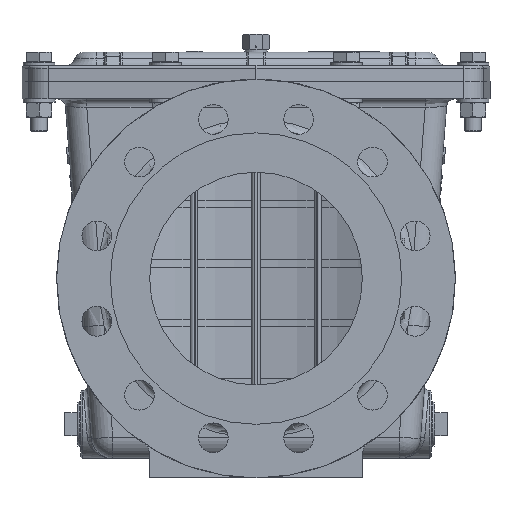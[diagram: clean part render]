
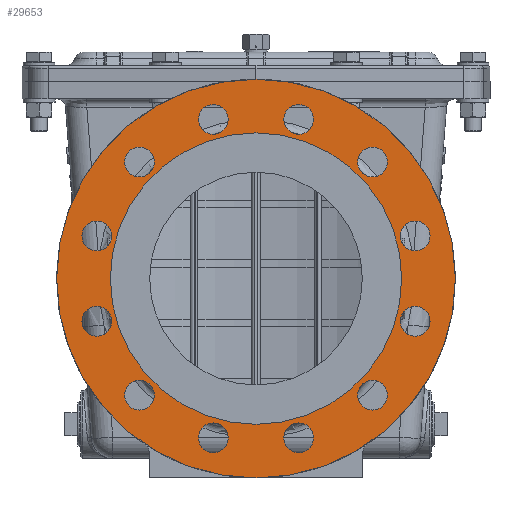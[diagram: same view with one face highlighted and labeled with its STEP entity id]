
A CAD part, front view. The second image highlights one B-rep face of the part: STEP entity #29653.
In plain terms, the highlighted planar face has unit normal (0, -1, 0) as drawn and (1, 0, 0) by its records, which use the part's own axes.
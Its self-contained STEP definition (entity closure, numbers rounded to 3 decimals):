
#6635=PLANE('',#31821);
#8175=FACE_BOUND('',#10999,.T.);
#8176=FACE_BOUND('',#11000,.T.);
#8177=FACE_BOUND('',#11001,.T.);
#8178=FACE_BOUND('',#11002,.T.);
#8179=FACE_BOUND('',#11003,.T.);
#8180=FACE_BOUND('',#11004,.T.);
#8181=FACE_BOUND('',#11005,.T.);
#8182=FACE_BOUND('',#11006,.T.);
#8183=FACE_BOUND('',#11007,.T.);
#8184=FACE_BOUND('',#11008,.T.);
#8185=FACE_BOUND('',#11009,.T.);
#8186=FACE_BOUND('',#11010,.T.);
#8187=FACE_BOUND('',#11011,.T.);
#9166=FACE_OUTER_BOUND('',#10998,.T.);
#10998=EDGE_LOOP('',(#24220));
#10999=EDGE_LOOP('',(#24221));
#11000=EDGE_LOOP('',(#24222));
#11001=EDGE_LOOP('',(#24223));
#11002=EDGE_LOOP('',(#24224));
#11003=EDGE_LOOP('',(#24225));
#11004=EDGE_LOOP('',(#24226));
#11005=EDGE_LOOP('',(#24227));
#11006=EDGE_LOOP('',(#24228));
#11007=EDGE_LOOP('',(#24229));
#11008=EDGE_LOOP('',(#24230));
#11009=EDGE_LOOP('',(#24231));
#11010=EDGE_LOOP('',(#24232));
#11011=EDGE_LOOP('',(#24233));
#12130=CIRCLE('',#31312,187.5);
#12366=CIRCLE('',#31795,14.);
#12367=CIRCLE('',#31797,14.);
#12368=CIRCLE('',#31799,14.);
#12369=CIRCLE('',#31801,14.);
#12370=CIRCLE('',#31803,14.);
#12371=CIRCLE('',#31805,14.);
#12372=CIRCLE('',#31807,14.);
#12373=CIRCLE('',#31809,14.);
#12374=CIRCLE('',#31811,14.);
#12375=CIRCLE('',#31813,14.);
#12376=CIRCLE('',#31815,14.);
#12377=CIRCLE('',#31817,14.);
#12378=CIRCLE('',#31819,137.);
#13920=VERTEX_POINT('',#46741);
#14289=VERTEX_POINT('',#51331);
#14290=VERTEX_POINT('',#51334);
#14291=VERTEX_POINT('',#51337);
#14292=VERTEX_POINT('',#51340);
#14293=VERTEX_POINT('',#51343);
#14294=VERTEX_POINT('',#51346);
#14295=VERTEX_POINT('',#51349);
#14296=VERTEX_POINT('',#51352);
#14297=VERTEX_POINT('',#51355);
#14298=VERTEX_POINT('',#51358);
#14299=VERTEX_POINT('',#51361);
#14300=VERTEX_POINT('',#51364);
#14301=VERTEX_POINT('',#51367);
#17217=EDGE_CURVE('',#13920,#13920,#12130,.T.);
#17821=EDGE_CURVE('',#14289,#14289,#12366,.T.);
#17822=EDGE_CURVE('',#14290,#14290,#12367,.T.);
#17823=EDGE_CURVE('',#14291,#14291,#12368,.T.);
#17824=EDGE_CURVE('',#14292,#14292,#12369,.T.);
#17825=EDGE_CURVE('',#14293,#14293,#12370,.T.);
#17826=EDGE_CURVE('',#14294,#14294,#12371,.T.);
#17827=EDGE_CURVE('',#14295,#14295,#12372,.T.);
#17828=EDGE_CURVE('',#14296,#14296,#12373,.T.);
#17829=EDGE_CURVE('',#14297,#14297,#12374,.T.);
#17830=EDGE_CURVE('',#14298,#14298,#12375,.T.);
#17831=EDGE_CURVE('',#14299,#14299,#12376,.T.);
#17832=EDGE_CURVE('',#14300,#14300,#12377,.T.);
#17833=EDGE_CURVE('',#14301,#14301,#12378,.T.);
#24220=ORIENTED_EDGE('',*,*,#17217,.T.);
#24221=ORIENTED_EDGE('',*,*,#17821,.T.);
#24222=ORIENTED_EDGE('',*,*,#17822,.T.);
#24223=ORIENTED_EDGE('',*,*,#17823,.T.);
#24224=ORIENTED_EDGE('',*,*,#17824,.T.);
#24225=ORIENTED_EDGE('',*,*,#17825,.T.);
#24226=ORIENTED_EDGE('',*,*,#17826,.T.);
#24227=ORIENTED_EDGE('',*,*,#17827,.T.);
#24228=ORIENTED_EDGE('',*,*,#17828,.T.);
#24229=ORIENTED_EDGE('',*,*,#17829,.T.);
#24230=ORIENTED_EDGE('',*,*,#17830,.T.);
#24231=ORIENTED_EDGE('',*,*,#17831,.T.);
#24232=ORIENTED_EDGE('',*,*,#17832,.T.);
#24233=ORIENTED_EDGE('',*,*,#17833,.F.);
#29653=ADVANCED_FACE('',(#9166,#8175,#8176,#8177,#8178,#8179,#8180,#8181,
#8182,#8183,#8184,#8185,#8186,#8187),#6635,.F.);
#31312=AXIS2_PLACEMENT_3D('',#46742,#35218,#35219);
#31795=AXIS2_PLACEMENT_3D('',#51332,#36392,#36393);
#31797=AXIS2_PLACEMENT_3D('',#51335,#36396,#36397);
#31799=AXIS2_PLACEMENT_3D('',#51338,#36400,#36401);
#31801=AXIS2_PLACEMENT_3D('',#51341,#36404,#36405);
#31803=AXIS2_PLACEMENT_3D('',#51344,#36408,#36409);
#31805=AXIS2_PLACEMENT_3D('',#51347,#36412,#36413);
#31807=AXIS2_PLACEMENT_3D('',#51350,#36416,#36417);
#31809=AXIS2_PLACEMENT_3D('',#51353,#36420,#36421);
#31811=AXIS2_PLACEMENT_3D('',#51356,#36424,#36425);
#31813=AXIS2_PLACEMENT_3D('',#51359,#36428,#36429);
#31815=AXIS2_PLACEMENT_3D('',#51362,#36432,#36433);
#31817=AXIS2_PLACEMENT_3D('',#51365,#36436,#36437);
#31819=AXIS2_PLACEMENT_3D('',#51368,#36440,#36441);
#31821=AXIS2_PLACEMENT_3D('',#51371,#36444,#36445);
#35218=DIRECTION('center_axis',(1.,0.,0.));
#35219=DIRECTION('ref_axis',(0.,1.,0.));
#36392=DIRECTION('center_axis',(-1.,0.,0.));
#36393=DIRECTION('ref_axis',(0.,0.866,0.5));
#36396=DIRECTION('center_axis',(-1.,0.,0.));
#36397=DIRECTION('ref_axis',(0.,1.,0.));
#36400=DIRECTION('center_axis',(-1.,0.,0.));
#36401=DIRECTION('ref_axis',(0.,0.866,-0.5));
#36404=DIRECTION('center_axis',(-1.,0.,0.));
#36405=DIRECTION('ref_axis',(0.,0.5,-0.866));
#36408=DIRECTION('center_axis',(-1.,0.,0.));
#36409=DIRECTION('ref_axis',(0.,0.,
-1.));
#36412=DIRECTION('center_axis',(-1.,0.,0.));
#36413=DIRECTION('ref_axis',(0.,-0.5,-0.866));
#36416=DIRECTION('center_axis',(-1.,0.,0.));
#36417=DIRECTION('ref_axis',(0.,-0.866,-0.5));
#36420=DIRECTION('center_axis',(-1.,0.,0.));
#36421=DIRECTION('ref_axis',(0.,-1.,0.));
#36424=DIRECTION('center_axis',(-1.,0.,0.));
#36425=DIRECTION('ref_axis',(0.,-0.866,0.5));
#36428=DIRECTION('center_axis',(-1.,0.,0.));
#36429=DIRECTION('ref_axis',(0.,-0.5,0.866));
#36432=DIRECTION('center_axis',(-1.,0.,0.));
#36433=DIRECTION('ref_axis',(0.,0.5,0.866));
#36436=DIRECTION('center_axis',(-1.,0.,0.));
#36437=DIRECTION('ref_axis',(0.,0.,1.));
#36440=DIRECTION('center_axis',(1.,0.,0.));
#36441=DIRECTION('ref_axis',(0.,1.,0.));
#36444=DIRECTION('center_axis',(-1.,0.,0.));
#36445=DIRECTION('ref_axis',(0.,0.,1.));
#46741=CARTESIAN_POINT('',(247.,187.5,0.));
#46742=CARTESIAN_POINT('Origin',(247.,0.,0.));
#51331=CARTESIAN_POINT('',(247.,-121.726,-116.602));
#51332=CARTESIAN_POINT('Origin',(247.,-109.602,-109.602));
#51334=CARTESIAN_POINT('',(247.,-163.719,-40.117));
#51335=CARTESIAN_POINT('Origin',(247.,-149.719,-40.117));
#51337=CARTESIAN_POINT('',(247.,-161.843,47.117));
#51338=CARTESIAN_POINT('Origin',(247.,-149.719,40.117));
#51340=CARTESIAN_POINT('',(247.,-116.602,121.726));
#51341=CARTESIAN_POINT('Origin',(247.,-109.602,109.602));
#51343=CARTESIAN_POINT('',(247.,-40.117,163.719));
#51344=CARTESIAN_POINT('Origin',(247.,-40.117,149.719));
#51346=CARTESIAN_POINT('',(247.,47.117,161.843));
#51347=CARTESIAN_POINT('Origin',(247.,40.117,149.719));
#51349=CARTESIAN_POINT('',(247.,121.726,116.602));
#51350=CARTESIAN_POINT('Origin',(247.,109.602,109.602));
#51352=CARTESIAN_POINT('',(247.,163.719,40.117));
#51353=CARTESIAN_POINT('Origin',(247.,149.719,40.117));
#51355=CARTESIAN_POINT('',(247.,161.843,-47.117));
#51356=CARTESIAN_POINT('Origin',(247.,149.719,-40.117));
#51358=CARTESIAN_POINT('',(247.,116.602,-121.726));
#51359=CARTESIAN_POINT('Origin',(247.,109.602,-109.602));
#51361=CARTESIAN_POINT('',(247.,-47.117,-161.843));
#51362=CARTESIAN_POINT('Origin',(247.,-40.117,-149.719));
#51364=CARTESIAN_POINT('',(247.,40.117,-163.719));
#51365=CARTESIAN_POINT('Origin',(247.,40.117,-149.719));
#51367=CARTESIAN_POINT('',(247.,137.,0.));
#51368=CARTESIAN_POINT('Origin',(247.,0.,0.));
#51371=CARTESIAN_POINT('Origin',(247.,162.25,0.));
